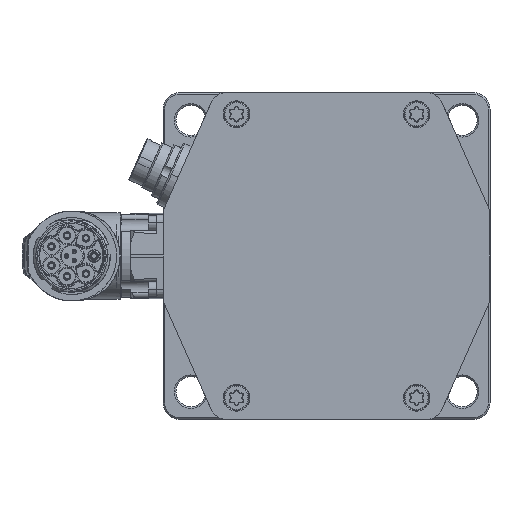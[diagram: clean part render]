
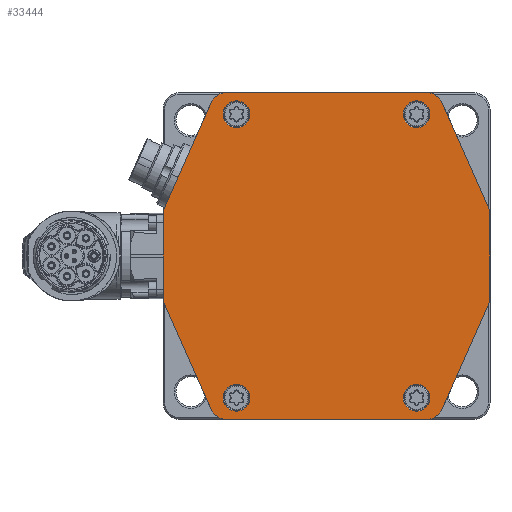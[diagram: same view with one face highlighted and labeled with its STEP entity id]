
A CAD part, left-side view. The second image highlights one B-rep face of the part: STEP entity #33444.
In plain terms, the highlighted planar face has unit normal (-1, 0, 0).
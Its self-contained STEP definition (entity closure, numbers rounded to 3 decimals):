
#1533=CARTESIAN_POINT('',(-245.,-30.,-44.));
#1534=DIRECTION('',(-1.,0.,0.));
#1535=DIRECTION('',(0.,0.,-1.));
#1536=AXIS2_PLACEMENT_3D('',#1533,#1534,#1535);
#1538=DIRECTION('',(0.,-1.,0.));
#1539=VECTOR('',#1538,60.);
#1540=CARTESIAN_POINT('',(-245.,30.,-49.));
#1541=LINE('',#1540,#1539);
#1542=CARTESIAN_POINT('',(-245.,30.,-44.));
#1543=DIRECTION('',(-1.,0.,0.));
#1544=DIRECTION('',(0.,0.914,-0.405));
#1545=AXIS2_PLACEMENT_3D('',#1542,#1543,#1544);
#1547=DIRECTION('',(0.,-0.405,-0.914));
#1548=VECTOR('',#1547,35.228);
#1549=CARTESIAN_POINT('',(-245.,48.829,-13.809));
#1550=LINE('',#1549,#1548);
#1551=CARTESIAN_POINT('',(-245.,47.,-13.));
#1552=DIRECTION('',(-1.,0.,0.));
#1553=DIRECTION('',(0.,1.,0.));
#1554=AXIS2_PLACEMENT_3D('',#1551,#1552,#1553);
#1556=DIRECTION('',(0.,0.,-1.));
#1557=VECTOR('',#1556,26.);
#1558=CARTESIAN_POINT('',(-245.,49.,13.));
#1559=LINE('',#1558,#1557);
#1560=CARTESIAN_POINT('',(-245.,47.,13.));
#1561=DIRECTION('',(-1.,0.,0.));
#1562=DIRECTION('',(0.,0.914,0.405));
#1563=AXIS2_PLACEMENT_3D('',#1560,#1561,#1562);
#1565=DIRECTION('',(0.,0.405,-0.914));
#1566=VECTOR('',#1565,35.228);
#1567=CARTESIAN_POINT('',(-245.,34.572,46.023));
#1568=LINE('',#1567,#1566);
#1569=CARTESIAN_POINT('',(-245.,30.,44.));
#1570=DIRECTION('',(-1.,0.,0.));
#1571=DIRECTION('',(0.,0.,1.));
#1572=AXIS2_PLACEMENT_3D('',#1569,#1570,#1571);
#1574=DIRECTION('',(0.,1.,0.));
#1575=VECTOR('',#1574,60.);
#1576=CARTESIAN_POINT('',(-245.,-30.,49.));
#1577=LINE('',#1576,#1575);
#1578=CARTESIAN_POINT('',(-245.,-30.,44.));
#1579=DIRECTION('',(-1.,0.,0.));
#1580=DIRECTION('',(0.,-0.914,0.405));
#1581=AXIS2_PLACEMENT_3D('',#1578,#1579,#1580);
#1583=DIRECTION('',(0.,0.405,0.914));
#1584=VECTOR('',#1583,35.228);
#1585=CARTESIAN_POINT('',(-245.,-48.829,13.809));
#1586=LINE('',#1585,#1584);
#1587=CARTESIAN_POINT('',(-245.,-47.,13.));
#1588=DIRECTION('',(-1.,0.,0.));
#1589=DIRECTION('',(0.,-1.,0.));
#1590=AXIS2_PLACEMENT_3D('',#1587,#1588,#1589);
#1592=DIRECTION('',(0.,0.,1.));
#1593=VECTOR('',#1592,26.);
#1594=CARTESIAN_POINT('',(-245.,-49.,-13.));
#1595=LINE('',#1594,#1593);
#1596=CARTESIAN_POINT('',(-245.,-47.,-13.));
#1597=DIRECTION('',(-1.,0.,0.));
#1598=DIRECTION('',(0.,-0.914,-0.405));
#1599=AXIS2_PLACEMENT_3D('',#1596,#1597,#1598);
#1601=DIRECTION('',(0.,-0.405,0.914));
#1602=VECTOR('',#1601,35.228);
#1603=CARTESIAN_POINT('',(-245.,-34.572,-46.023));
#1604=LINE('',#1603,#1602);
#1605=CARTESIAN_POINT('',(-245.,27.,-42.5));
#1606=DIRECTION('',(-1.,0.,0.));
#1607=DIRECTION('',(0.,0.,-1.));
#1608=AXIS2_PLACEMENT_3D('',#1605,#1606,#1607);
#1610=CARTESIAN_POINT('',(-245.,27.,-42.5));
#1611=DIRECTION('',(-1.,0.,0.));
#1612=DIRECTION('',(0.,0.,1.));
#1613=AXIS2_PLACEMENT_3D('',#1610,#1611,#1612);
#1615=CARTESIAN_POINT('',(-245.,27.,42.5));
#1616=DIRECTION('',(1.,0.,0.));
#1617=DIRECTION('',(0.,0.,1.));
#1618=AXIS2_PLACEMENT_3D('',#1615,#1616,#1617);
#1620=CARTESIAN_POINT('',(-245.,27.,42.5));
#1621=DIRECTION('',(1.,0.,0.));
#1622=DIRECTION('',(0.,0.,-1.));
#1623=AXIS2_PLACEMENT_3D('',#1620,#1621,#1622);
#1625=CARTESIAN_POINT('',(-245.,-27.,-42.5));
#1626=DIRECTION('',(1.,0.,0.));
#1627=DIRECTION('',(0.,0.,-1.));
#1628=AXIS2_PLACEMENT_3D('',#1625,#1626,#1627);
#1630=CARTESIAN_POINT('',(-245.,-27.,-42.5));
#1631=DIRECTION('',(1.,0.,0.));
#1632=DIRECTION('',(0.,0.,1.));
#1633=AXIS2_PLACEMENT_3D('',#1630,#1631,#1632);
#1635=CARTESIAN_POINT('',(-245.,-27.,42.5));
#1636=DIRECTION('',(-1.,0.,0.));
#1637=DIRECTION('',(0.,0.,1.));
#1638=AXIS2_PLACEMENT_3D('',#1635,#1636,#1637);
#1640=CARTESIAN_POINT('',(-245.,-27.,42.5));
#1641=DIRECTION('',(-1.,0.,0.));
#1642=DIRECTION('',(0.,0.,-1.));
#1643=AXIS2_PLACEMENT_3D('',#1640,#1641,#1642);
#30752=CARTESIAN_POINT('',(-245.,-30.,-49.));
#30753=CARTESIAN_POINT('',(-245.,-34.572,-46.023));
#30754=VERTEX_POINT('',#30752);
#30755=VERTEX_POINT('',#30753);
#30756=CARTESIAN_POINT('',(-245.,-48.829,-13.809));
#30757=VERTEX_POINT('',#30756);
#30758=CARTESIAN_POINT('',(-245.,-49.,-13.));
#30759=VERTEX_POINT('',#30758);
#30760=CARTESIAN_POINT('',(-245.,-49.,13.));
#30761=VERTEX_POINT('',#30760);
#30762=CARTESIAN_POINT('',(-245.,-48.829,13.809));
#30763=VERTEX_POINT('',#30762);
#30764=CARTESIAN_POINT('',(-245.,-34.572,46.023));
#30765=VERTEX_POINT('',#30764);
#30766=CARTESIAN_POINT('',(-245.,-30.,49.));
#30767=VERTEX_POINT('',#30766);
#30768=CARTESIAN_POINT('',(-245.,30.,49.));
#30769=VERTEX_POINT('',#30768);
#30770=CARTESIAN_POINT('',(-245.,34.572,46.023));
#30771=VERTEX_POINT('',#30770);
#30772=CARTESIAN_POINT('',(-245.,48.829,13.809));
#30773=VERTEX_POINT('',#30772);
#30774=CARTESIAN_POINT('',(-245.,49.,13.));
#30775=VERTEX_POINT('',#30774);
#30776=CARTESIAN_POINT('',(-245.,49.,-13.));
#30777=VERTEX_POINT('',#30776);
#30778=CARTESIAN_POINT('',(-245.,48.829,-13.809));
#30779=VERTEX_POINT('',#30778);
#30780=CARTESIAN_POINT('',(-245.,34.572,-46.023));
#30781=VERTEX_POINT('',#30780);
#30782=CARTESIAN_POINT('',(-245.,30.,-49.));
#30783=VERTEX_POINT('',#30782);
#30796=CARTESIAN_POINT('',(-245.,27.,-46.5));
#30797=CARTESIAN_POINT('',(-245.,27.,-38.5));
#30798=VERTEX_POINT('',#30796);
#30799=VERTEX_POINT('',#30797);
#30804=CARTESIAN_POINT('',(-245.,27.,46.5));
#30805=VERTEX_POINT('',#30804);
#30806=CARTESIAN_POINT('',(-245.,27.,38.5));
#30807=VERTEX_POINT('',#30806);
#30812=CARTESIAN_POINT('',(-245.,-27.,-46.5));
#30813=VERTEX_POINT('',#30812);
#30814=CARTESIAN_POINT('',(-245.,-27.,-38.5));
#30815=VERTEX_POINT('',#30814);
#30820=CARTESIAN_POINT('',(-245.,-27.,46.5));
#30821=VERTEX_POINT('',#30820);
#30822=CARTESIAN_POINT('',(-245.,-27.,38.5));
#30823=VERTEX_POINT('',#30822);
#33397=CARTESIAN_POINT('',(-245.,0.,0.));
#33398=DIRECTION('',(-1.,0.,0.));
#33399=DIRECTION('',(0.,1.,0.));
#33400=AXIS2_PLACEMENT_3D('',#33397,#33398,#33399);
#33401=PLANE('',#33400);
#33402=ORIENTED_EDGE('',*,*,#33181,.F.);
#33403=ORIENTED_EDGE('',*,*,#33196,.F.);
#33404=ORIENTED_EDGE('',*,*,#33210,.F.);
#33405=ORIENTED_EDGE('',*,*,#33224,.F.);
#33406=ORIENTED_EDGE('',*,*,#33238,.F.);
#33407=ORIENTED_EDGE('',*,*,#33252,.F.);
#33408=ORIENTED_EDGE('',*,*,#33266,.F.);
#33409=ORIENTED_EDGE('',*,*,#33280,.F.);
#33410=ORIENTED_EDGE('',*,*,#33294,.F.);
#33411=ORIENTED_EDGE('',*,*,#33308,.F.);
#33412=ORIENTED_EDGE('',*,*,#33322,.F.);
#33413=ORIENTED_EDGE('',*,*,#33336,.F.);
#33414=ORIENTED_EDGE('',*,*,#33350,.F.);
#33415=ORIENTED_EDGE('',*,*,#33364,.F.);
#33416=ORIENTED_EDGE('',*,*,#33378,.F.);
#33417=ORIENTED_EDGE('',*,*,#33391,.F.);
#33418=EDGE_LOOP('',(#33402,#33403,#33404,#33405,#33406,#33407,#33408,#33409,
#33410,#33411,#33412,#33413,#33414,#33415,#33416,#33417));
#33419=FACE_OUTER_BOUND('',#33418,.F.);
#33421=ORIENTED_EDGE('',*,*,#33420,.T.);
#33423=ORIENTED_EDGE('',*,*,#33422,.T.);
#33424=EDGE_LOOP('',(#33421,#33423));
#33425=FACE_BOUND('',#33424,.F.);
#33427=ORIENTED_EDGE('',*,*,#33426,.F.);
#33429=ORIENTED_EDGE('',*,*,#33428,.F.);
#33430=EDGE_LOOP('',(#33427,#33429));
#33431=FACE_BOUND('',#33430,.F.);
#33433=ORIENTED_EDGE('',*,*,#33432,.F.);
#33435=ORIENTED_EDGE('',*,*,#33434,.F.);
#33436=EDGE_LOOP('',(#33433,#33435));
#33437=FACE_BOUND('',#33436,.F.);
#33439=ORIENTED_EDGE('',*,*,#33438,.T.);
#33441=ORIENTED_EDGE('',*,*,#33440,.T.);
#33442=EDGE_LOOP('',(#33439,#33441));
#33443=FACE_BOUND('',#33442,.F.);
#33444=ADVANCED_FACE('',(#33419,#33425,#33431,#33437,#33443),#33401,.T.);
#1537=CIRCLE('',#1536,5.);
#1546=CIRCLE('',#1545,5.);
#1555=CIRCLE('',#1554,2.);
#1564=CIRCLE('',#1563,2.);
#1573=CIRCLE('',#1572,5.);
#1582=CIRCLE('',#1581,5.);
#1591=CIRCLE('',#1590,2.);
#1600=CIRCLE('',#1599,2.);
#1609=CIRCLE('',#1608,4.);
#1614=CIRCLE('',#1613,4.);
#1619=CIRCLE('',#1618,4.);
#1624=CIRCLE('',#1623,4.);
#1629=CIRCLE('',#1628,4.);
#1634=CIRCLE('',#1633,4.);
#1639=CIRCLE('',#1638,4.);
#1644=CIRCLE('',#1643,4.);
#33181=EDGE_CURVE('',#30754,#30755,#1537,.T.);
#33196=EDGE_CURVE('',#30783,#30754,#1541,.T.);
#33210=EDGE_CURVE('',#30781,#30783,#1546,.T.);
#33224=EDGE_CURVE('',#30779,#30781,#1550,.T.);
#33238=EDGE_CURVE('',#30777,#30779,#1555,.T.);
#33252=EDGE_CURVE('',#30775,#30777,#1559,.T.);
#33266=EDGE_CURVE('',#30773,#30775,#1564,.T.);
#33280=EDGE_CURVE('',#30771,#30773,#1568,.T.);
#33294=EDGE_CURVE('',#30769,#30771,#1573,.T.);
#33308=EDGE_CURVE('',#30767,#30769,#1577,.T.);
#33322=EDGE_CURVE('',#30765,#30767,#1582,.T.);
#33336=EDGE_CURVE('',#30763,#30765,#1586,.T.);
#33350=EDGE_CURVE('',#30761,#30763,#1591,.T.);
#33364=EDGE_CURVE('',#30759,#30761,#1595,.T.);
#33378=EDGE_CURVE('',#30757,#30759,#1600,.T.);
#33391=EDGE_CURVE('',#30755,#30757,#1604,.T.);
#33420=EDGE_CURVE('',#30798,#30799,#1609,.T.);
#33422=EDGE_CURVE('',#30799,#30798,#1614,.T.);
#33426=EDGE_CURVE('',#30805,#30807,#1619,.T.);
#33428=EDGE_CURVE('',#30807,#30805,#1624,.T.);
#33432=EDGE_CURVE('',#30813,#30815,#1629,.T.);
#33434=EDGE_CURVE('',#30815,#30813,#1634,.T.);
#33438=EDGE_CURVE('',#30821,#30823,#1639,.T.);
#33440=EDGE_CURVE('',#30823,#30821,#1644,.T.);
